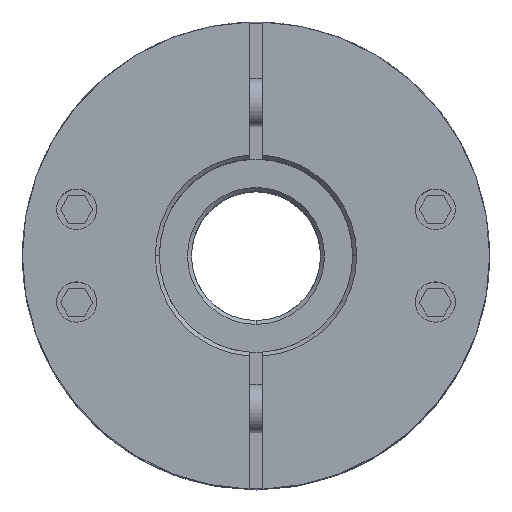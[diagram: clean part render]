
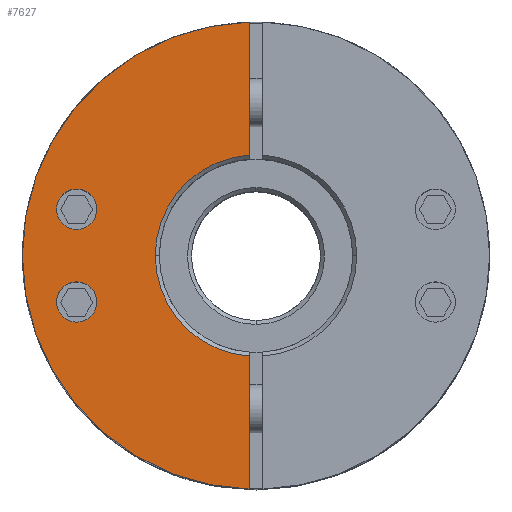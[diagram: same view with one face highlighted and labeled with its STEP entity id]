
A CAD part, top view. The second image highlights one B-rep face of the part: STEP entity #7627.
In plain terms, the highlighted planar face has unit normal (0, 0, 1).
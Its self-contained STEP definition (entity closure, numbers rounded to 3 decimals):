
#4241=CARTESIAN_POINT('',(-19.767,-5.759,27.125));
#4242=VERTEX_POINT('',#4241);
#4251=CARTESIAN_POINT('',(-24.767,-5.759,27.125));
#4252=VERTEX_POINT('',#4251);
#4253=CARTESIAN_POINT('',(-22.267,-5.759,27.125));
#4254=DIRECTION('',(0.0,0.0,-1.0));
#4255=DIRECTION('',(1.0,0.0,0.0));
#4256=AXIS2_PLACEMENT_3D('',#4253,#4254,#4255);
#4257=CIRCLE('',#4256,2.5);
#4258=EDGE_CURVE('',#4252,#4242,#4257,.T.);
#4367=CARTESIAN_POINT('',(-19.767,5.759,27.125));
#4368=VERTEX_POINT('',#4367);
#4377=CARTESIAN_POINT('',(-24.767,5.759,27.125));
#4378=VERTEX_POINT('',#4377);
#4379=CARTESIAN_POINT('',(-22.267,5.759,27.125));
#4380=DIRECTION('',(0.0,0.0,-1.0));
#4381=DIRECTION('',(1.0,0.0,0.0));
#4382=AXIS2_PLACEMENT_3D('',#4379,#4380,#4381);
#4383=CIRCLE('',#4382,2.5);
#4384=EDGE_CURVE('',#4378,#4368,#4383,.T.);
#4596=CARTESIAN_POINT('',(-29.0,0.,27.125));
#4597=VERTEX_POINT('',#4596);
#4604=CARTESIAN_POINT('',(-0.75,28.99,27.125));
#4605=VERTEX_POINT('',#4604);
#4606=CARTESIAN_POINT('',(0.0,0.0,27.125));
#4607=DIRECTION('',(0.0,0.0,-1.0));
#4608=DIRECTION('',(1.0,0.0,0.0));
#4609=AXIS2_PLACEMENT_3D('',#4606,#4607,#4608);
#4610=CIRCLE('',#4609,29.0);
#4611=EDGE_CURVE('',#4597,#4605,#4610,.T.);
#4958=CARTESIAN_POINT('',(-12.5,0.,27.125));
#4959=VERTEX_POINT('',#4958);
#4975=CARTESIAN_POINT('',(-0.75,12.477,27.125));
#4976=VERTEX_POINT('',#4975);
#4990=CARTESIAN_POINT('',(0.0,0.0,27.125));
#4991=DIRECTION('',(0.0,0.0,1.0));
#4992=DIRECTION('',(-1.0,0.0,0.0));
#4993=AXIS2_PLACEMENT_3D('',#4990,#4991,#4992);
#4994=CIRCLE('',#4993,12.5);
#4995=EDGE_CURVE('',#4976,#4959,#4994,.T.);
#7380=CARTESIAN_POINT('',(-0.75,-12.477,27.125));
#7381=VERTEX_POINT('',#7380);
#7382=CARTESIAN_POINT('',(0.0,0.0,27.125));
#7383=DIRECTION('',(0.0,0.0,1.0));
#7384=DIRECTION('',(-1.0,0.0,0.0));
#7385=AXIS2_PLACEMENT_3D('',#7382,#7383,#7384);
#7386=CIRCLE('',#7385,12.5);
#7387=EDGE_CURVE('',#4959,#7381,#7386,.T.);
#7420=CARTESIAN_POINT('',(-0.75,12.477,27.125));
#7421=DIRECTION('',(0.0,1.0,0.0));
#7422=VECTOR('',#7421,16.513);
#7423=LINE('',#7420,#7422);
#7424=EDGE_CURVE('',#4976,#4605,#7423,.T.);
#7534=CARTESIAN_POINT('',(-0.75,-28.99,27.125));
#7535=VERTEX_POINT('',#7534);
#7536=CARTESIAN_POINT('',(-0.75,-28.99,27.125));
#7537=DIRECTION('',(0.0,1.0,0.0));
#7538=VECTOR('',#7537,16.513);
#7539=LINE('',#7536,#7538);
#7540=EDGE_CURVE('',#7535,#7381,#7539,.T.);
#7588=CARTESIAN_POINT('',(2.636,0.,27.125));
#7589=DIRECTION('',(0.0,0.0,1.0));
#7590=DIRECTION('',(1.0,0.0,0.0));
#7591=AXIS2_PLACEMENT_3D('',#7588,#7589,#7590);
#7592=PLANE('',#7591);
#7593=ORIENTED_EDGE('',*,*,#4995,.F.);
#7594=ORIENTED_EDGE('',*,*,#7424,.T.);
#7595=ORIENTED_EDGE('',*,*,#4611,.F.);
#7596=CARTESIAN_POINT('',(0.0,0.0,27.125));
#7597=DIRECTION('',(0.0,0.0,-1.0));
#7598=DIRECTION('',(1.0,0.0,0.0));
#7599=AXIS2_PLACEMENT_3D('',#7596,#7597,#7598);
#7600=CIRCLE('',#7599,29.0);
#7601=EDGE_CURVE('',#7535,#4597,#7600,.T.);
#7602=ORIENTED_EDGE('',*,*,#7601,.F.);
#7603=ORIENTED_EDGE('',*,*,#7540,.T.);
#7604=ORIENTED_EDGE('',*,*,#7387,.F.);
#7605=EDGE_LOOP('',(#7593,#7594,#7595,#7602,#7603,#7604));
#7606=FACE_OUTER_BOUND('',#7605,.T.);
#7607=CARTESIAN_POINT('',(-22.267,-5.759,27.125));
#7608=DIRECTION('',(0.0,0.0,-1.0));
#7609=DIRECTION('',(1.0,0.0,0.0));
#7610=AXIS2_PLACEMENT_3D('',#7607,#7608,#7609);
#7611=CIRCLE('',#7610,2.5);
#7612=EDGE_CURVE('',#4242,#4252,#7611,.T.);
#7613=ORIENTED_EDGE('',*,*,#7612,.T.);
#7614=ORIENTED_EDGE('',*,*,#4258,.T.);
#7615=EDGE_LOOP('',(#7613,#7614));
#7616=FACE_BOUND('',#7615,.T.);
#7617=CARTESIAN_POINT('',(-22.267,5.759,27.125));
#7618=DIRECTION('',(0.0,0.0,-1.0));
#7619=DIRECTION('',(1.0,0.0,0.0));
#7620=AXIS2_PLACEMENT_3D('',#7617,#7618,#7619);
#7621=CIRCLE('',#7620,2.5);
#7622=EDGE_CURVE('',#4368,#4378,#7621,.T.);
#7623=ORIENTED_EDGE('',*,*,#7622,.T.);
#7624=ORIENTED_EDGE('',*,*,#4384,.T.);
#7625=EDGE_LOOP('',(#7623,#7624));
#7626=FACE_BOUND('',#7625,.T.);
#7627=ADVANCED_FACE('',(#7606,#7616,#7626),#7592,.T.);
